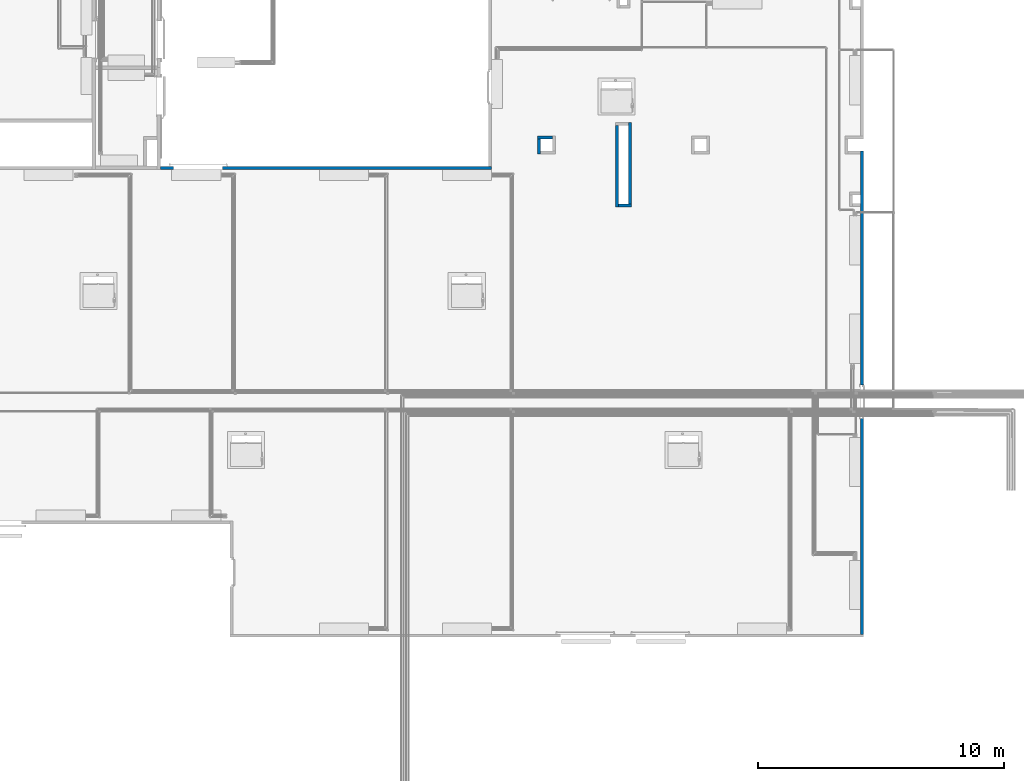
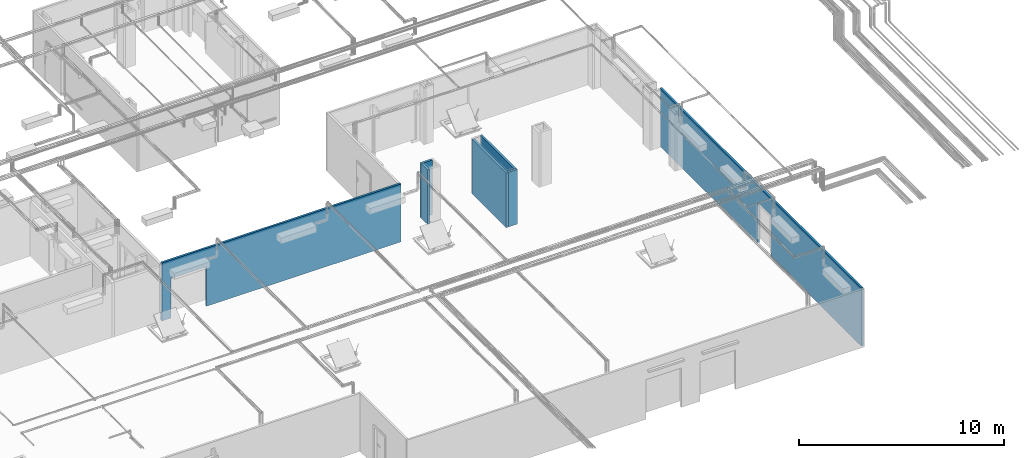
# One storey, part 18 of 652: 7 walls, 4 openings.
"""IFC2X3 building model written with IfcOpenShell, lengths in millimetres."""

from ifc_helpers import new_model, entity, si_unit, converted_unit, direction, frame, frame_2d, origin, place, context, subcontext, project, spatial, rectangle, extrude, material, layer, layer_set, layer_usage, type_object, element, save


model = new_model("IFC2X3")

# Units and contexts
model_context = context("Model", 3, precision=0.01, world=frame((0.0, 0.0, 308426.39999999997)), true_north=direction((6.123233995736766e-17, 1.0)))
plan_context = context("Plan", 3, precision=0.01, world=frame((0.0, 0.0, 308426.39999999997)), true_north=direction((6.123233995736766e-17, 1.0)))
body_context = subcontext(model_context, "Body", "Model", "MODEL_VIEW")
ifc_project = project(units=[si_unit("LENGTHUNIT", "METRE", prefix="MILLI"), si_unit("AREAUNIT", "SQUARE_METRE"), si_unit("VOLUMEUNIT", "CUBIC_METRE"), converted_unit("PLANEANGLEUNIT", "DEGREE", entity("IfcPlaneAngleMeasure", 0.017453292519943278), si_unit("PLANEANGLEUNIT", "RADIAN"), dimensions=[0, 0, 0, 0, 0, 0, 0])], contexts=[model_context, plan_context])

# Site, building, storey
site_placement = place(None, origin())
site = spatial("IfcSite", under=ifc_project, at=site_placement, Name="Default", CompositionType="ELEMENT")
building_placement = place(site_placement, origin())
building = spatial("IfcBuilding", under=site, at=building_placement, CompositionType="ELEMENT")
storey_placement = place(building_placement, frame((0.0, 0.0, 1730.6999999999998)))
storey = spatial("IfcBuildingStorey", under=building, at=storey_placement, Name="EG_Produktion_FFB", CompositionType="ELEMENT", Elevation=1730.6999999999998)

# Wall, openings
ifc_material = material(Name="GPG_Paneelwand")
ifc_layer = layer(ifc_material, 120.0)
ifc_layer_set = layer_set([ifc_layer], Name="Basiswand:Kühlzellen Paneelwand 120")
ifc_layer_usage_1 = layer_usage(ifc_layer_set, "AXIS2", "POSITIVE", -60.0)
wall_type = type_object("IfcWallType", Name="Basiswand:Kühlzellen Paneelwand 120", PredefinedType="STANDARD", material=ifc_layer_set)
wall_1_placement = place(storey_placement, frame((66560.0, 31730.0, -250.0), z_axis=(0.0, 0.0, 1.0), x_axis=(0.0, 1.0, 0.0)))
wall_1 = element("IfcWallStandardCase", 1, at=wall_1_placement, inside=storey, type_object=wall_type, material=ifc_layer_usage_1, Name="Basiswand:Kühlzellen Paneelwand 120", ObjectType="Basiswand:Kühlzellen Paneelwand 120", context=body_context, shape_type="SweptSolid", body=[
    extrude(rectangle(XDim=19620.000000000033, YDim=120.00000000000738, at=frame_2d((9810.000000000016, -4.618527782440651e-14), x_axis=(-1.0, 0.0))), origin(), (0.0, 0.0, 1.0), 3449.9999999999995),
])
opening_1_placement = place(wall_1_placement, frame((-31730.0, 66560.0, 250.0), z_axis=(0.0, 0.0, 1.0), x_axis=(0.0, -1.0, 0.0)))
element("IfcOpeningElement", 2, at=opening_1_placement, cuts=wall_1, Name="Basiswand:Kühlzellen Paneelwand 120", ObjectType="Opening", context=body_context, shape_type="SweptSolid", body=[
    extrude(rectangle(XDim=2175.0, YDim=1350.000000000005, at=frame_2d((0.0, -3.410605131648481e-13), x_axis=(0.0, 1.0))), frame((68024.0, 41175.0, 1087.4999999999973), z_axis=(-1.0, 0.0, 0.0), x_axis=(0.0, -1.0, 0.0)), (0.0, 0.0, 1.0), 3048.0),
])
opening_2_placement = place(wall_1_placement, frame((-31730.0, 66560.0, 250.0), z_axis=(0.0, 0.0, 1.0), x_axis=(0.0, -1.0, 0.0)))
element("IfcOpeningElement", 3, at=opening_2_placement, cuts=wall_1, Name="Basiswand:Kühlzellen Paneelwand 120", ObjectType="Opening", context=body_context, shape_type="SweptSolid", body=[
    extrude(rectangle(XDim=249.99999999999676, YDim=1350.000000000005, at=frame_2d((0.0, 0.0), x_axis=(0.0, 1.0))), frame((68144.0, 41175.0, -125.0), z_axis=(-1.0, 0.0, 0.0), x_axis=(0.0, -1.0, 0.0)), (0.0, 0.0, 1.0), 3048.0),
])

# Walls
ifc_layer_usage_2 = layer_usage(ifc_layer_set, "AXIS2", "NEGATIVE", 60.0)
wall_2_placement = place(storey_placement, frame((53380.0, 51910.0, -250.0)))
element("IfcWallStandardCase", 4, at=wall_2_placement, inside=storey, type_object=wall_type, material=ifc_layer_usage_2, Name="Basiswand:Kühlzellen Paneelwand 120", ObjectType="Basiswand:Kühlzellen Paneelwand 120", context=body_context, shape_type="SweptSolid", body=[
    extrude(rectangle(XDim=620.0000000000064, YDim=120.00000000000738, at=frame_2d((310.0000000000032, 0.0), x_axis=(-1.0, 0.0))), origin(), (0.0, 0.0, 1.0), 3249.9999999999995),
])
ifc_layer_usage_3 = layer_usage(ifc_layer_set, "AXIS2", "NEGATIVE", 60.0)
wall_3_placement = place(storey_placement, frame((53440.0, 51230.0, -250.0), z_axis=(0.0, 0.0, 1.0), x_axis=(0.0, 1.0, 0.0)))
element("IfcWallStandardCase", 5, at=wall_3_placement, inside=storey, type_object=wall_type, material=ifc_layer_usage_3, Name="Basiswand:Kühlzellen Paneelwand 120", ObjectType="Basiswand:Kühlzellen Paneelwand 120", context=body_context, shape_type="SweptSolid", body=[
    extrude(rectangle(XDim=619.9999999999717, YDim=120.00000000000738, at=frame_2d((309.99999999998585, 0.0), x_axis=(-1.0, 0.0))), origin(), (0.0, 0.0, 1.0), 3249.9999999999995),
])
ifc_layer_usage_4 = layer_usage(ifc_layer_set, "AXIS2", "NEGATIVE", 60.0)
wall_4_placement = place(storey_placement, frame((56615.0, 49079.99999999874, -250.0), z_axis=(0.0, 0.0, 1.0), x_axis=(0.0, 1.0, 0.0)))
element("IfcWallStandardCase", 6, at=wall_4_placement, inside=storey, type_object=wall_type, material=ifc_layer_usage_4, Name="Basiswand:Kühlzellen Paneelwand 120", ObjectType="Basiswand:Kühlzellen Paneelwand 120", context=body_context, shape_type="SweptSolid", body=[
    extrude(rectangle(XDim=3320.000000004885, YDim=120.00000000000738, at=frame_2d((1660.0000000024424, 0.0), x_axis=(-1.0, 0.0))), origin(), (0.0, 0.0, 1.0), 3249.9999999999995),
])
ifc_layer_usage_5 = layer_usage(ifc_layer_set, "AXIS2", "NEGATIVE", 60.0)
wall_5_placement = place(storey_placement, frame((57195.0, 49139.999999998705, -250.0), z_axis=(0.0, 0.0, 1.0), x_axis=(-1.0, 0.0, 0.0)))
element("IfcWallStandardCase", 7, at=wall_5_placement, inside=storey, type_object=wall_type, material=ifc_layer_usage_5, Name="Basiswand:Kühlzellen Paneelwand 120", ObjectType="Basiswand:Kühlzellen Paneelwand 120", context=body_context, shape_type="SweptSolid", body=[
    extrude(rectangle(XDim=520.000000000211, YDim=120.00000000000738, at=frame_2d((260.0000000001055, 8.668621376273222e-13), x_axis=(-1.0, 0.0))), origin(), (0.0, 0.0, 1.0), 3249.9999999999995),
])
ifc_layer_usage_6 = layer_usage(ifc_layer_set, "AXIS2", "NEGATIVE", 60.0)
wall_6_placement = place(storey_placement, frame((57135.0, 52520.00000000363, -250.0), z_axis=(0.0, 0.0, 1.0), x_axis=(0.0, -1.0, 0.0)))
element("IfcWallStandardCase", 8, at=wall_6_placement, inside=storey, type_object=wall_type, material=ifc_layer_usage_6, Name="Basiswand:Kühlzellen Paneelwand 120", ObjectType="Basiswand:Kühlzellen Paneelwand 120", context=body_context, shape_type="SweptSolid", body=[
    extrude(rectangle(XDim=3320.000000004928, YDim=120.00000000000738, at=frame_2d((1660.000000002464, -2.9309887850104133e-12), x_axis=(-1.0, 0.0))), origin(), (0.0, 0.0, 1.0), 3249.9999999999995),
])

# Wall, openings
ifc_layer_usage_7 = layer_usage(ifc_layer_set, "AXIS2", "NEGATIVE", 60.0)
wall_7_placement = place(storey_placement, frame((38075.0, 50660.0, -250.0)))
wall_7 = element("IfcWallStandardCase", 9, at=wall_7_placement, inside=storey, type_object=wall_type, material=ifc_layer_usage_7, Name="Basiswand:Kühlzellen Paneelwand 120", ObjectType="Basiswand:Kühlzellen Paneelwand 120", context=body_context, shape_type="SweptSolid", body=[
    extrude(rectangle(XDim=13445.000000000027, YDim=120.00000000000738, at=frame_2d((6722.500000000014, 0.0), x_axis=(-1.0, 0.0))), origin(), (0.0, 0.0, 1.0), 3449.9999999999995),
])
opening_3_placement = place(wall_7_placement, frame((-38075.0, -50660.0, 250.0)))
element("IfcOpeningElement", 10, at=opening_3_placement, cuts=wall_7, Name="Basiswand:Kühlzellen Paneelwand 120", ObjectType="Opening", context=body_context, shape_type="SweptSolid", body=[
    extrude(rectangle(XDim=2099.99999999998, YDim=2000.0000000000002, at=frame_2d((-2.1600499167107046e-12, 0.0), x_axis=(0.0, 1.0))), frame((39600.0, 49076.0, 1050.0), z_axis=(0.0, 1.0, 0.0), x_axis=(1.0, 0.0, 0.0)), (0.0, 0.0, 1.0), 3048.0),
])
opening_4_placement = place(wall_7_placement, frame((-38075.0, -50660.0, 250.0)))
element("IfcOpeningElement", 11, at=opening_4_placement, cuts=wall_7, Name="Basiswand:Kühlzellen Paneelwand 120", ObjectType="Opening", context=body_context, shape_type="SweptSolid", body=[
    extrude(rectangle(XDim=250.00000000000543, YDim=2000.0000000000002, at=frame_2d((-2.1600499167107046e-12, 0.0), x_axis=(0.0, 1.0))), frame((39600.0, 49196.0, -125.0), z_axis=(0.0, 1.0, 0.0), x_axis=(1.0, 0.0, 0.0)), (0.0, 0.0, 1.0), 3048.0),
])

save(model, "model.ifc")
